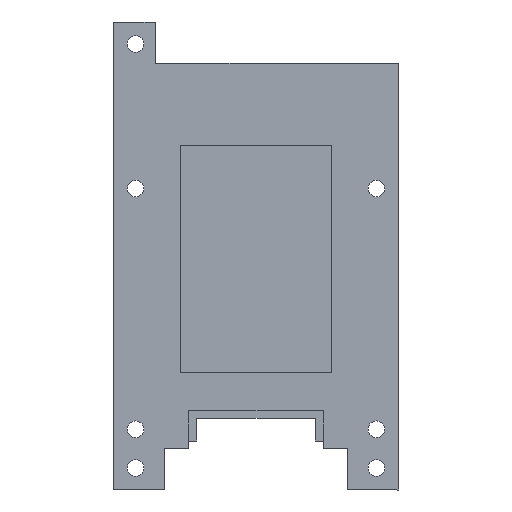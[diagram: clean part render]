
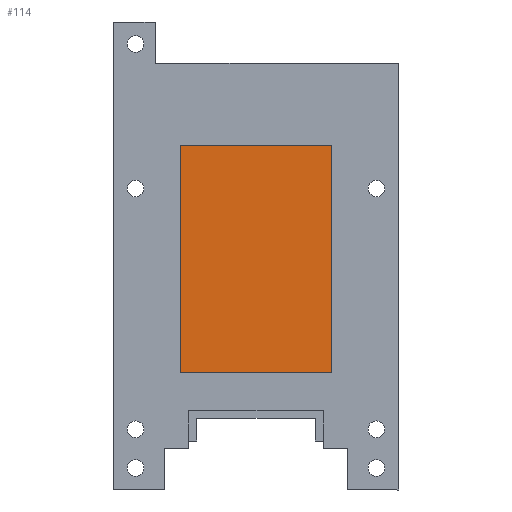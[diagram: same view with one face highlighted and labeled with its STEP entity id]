
A CAD part, front view. The second image highlights one B-rep face of the part: STEP entity #114.
In plain terms, the highlighted planar face has unit normal (0, -1, 0).
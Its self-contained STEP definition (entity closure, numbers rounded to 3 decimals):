
#114=ADVANCED_FACE('',(#175),#645,.T.);
#175=FACE_OUTER_BOUND('',#272,.F.);
#272=EDGE_LOOP('',(#543,#544,#545,#546));
#543=ORIENTED_EDGE('',*,*,#822,.F.);
#544=ORIENTED_EDGE('',*,*,#823,.F.);
#545=ORIENTED_EDGE('',*,*,#824,.F.);
#546=ORIENTED_EDGE('',*,*,#825,.F.);
#645=PLANE('',#1305);
#822=EDGE_CURVE('',#1136,#1135,#957,.T.);
#823=EDGE_CURVE('',#1134,#1136,#958,.T.);
#824=EDGE_CURVE('',#1133,#1134,#959,.T.);
#825=EDGE_CURVE('',#1135,#1133,#960,.T.);
#957=LINE('',#1881,#1092);
#958=LINE('',#1882,#1093);
#959=LINE('',#1883,#1094);
#960=LINE('',#1884,#1095);
#1092=VECTOR('',#1485,30.);
#1093=VECTOR('',#1486,20.);
#1094=VECTOR('',#1487,30.);
#1095=VECTOR('',#1488,20.);
#1133=VERTEX_POINT('',#1651);
#1134=VERTEX_POINT('',#1652);
#1135=VERTEX_POINT('',#1653);
#1136=VERTEX_POINT('',#1654);
#1305=AXIS2_PLACEMENT_3D('',#1956,#1606,#1607);
#1485=DIRECTION('',(0.,0.,-1.));
#1486=DIRECTION('',(-1.,0.,0.));
#1487=DIRECTION('',(0.,0.,1.));
#1488=DIRECTION('',(1.,0.,0.));
#1606=DIRECTION('',(0.,-1.,0.));
#1607=DIRECTION('',(-1.,0.,0.));
#1651=CARTESIAN_POINT('',(10.,-205.249,103.144));
#1652=CARTESIAN_POINT('',(10.,-205.249,133.144));
#1653=CARTESIAN_POINT('',(-10.,-205.249,103.144));
#1654=CARTESIAN_POINT('',(-10.,-205.249,133.144));
#1881=CARTESIAN_POINT('',(-10.,-205.249,133.144));
#1882=CARTESIAN_POINT('',(10.,-205.249,133.144));
#1883=CARTESIAN_POINT('',(10.,-205.249,103.144));
#1884=CARTESIAN_POINT('',(-10.,-205.249,103.144));
#1956=CARTESIAN_POINT('',(10.3,-205.249,133.444));
